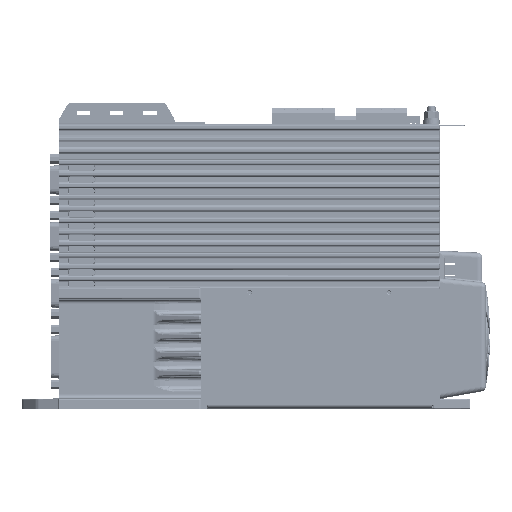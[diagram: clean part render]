
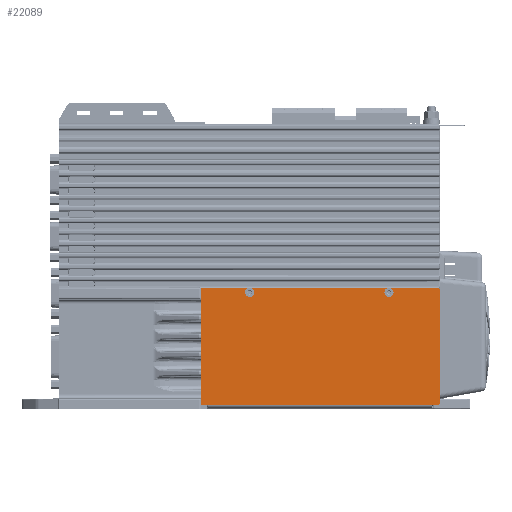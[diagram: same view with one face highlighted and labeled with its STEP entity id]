
A CAD part, left-side view. The second image highlights one B-rep face of the part: STEP entity #22089.
In plain terms, the highlighted planar face has unit normal (-1, 0, 0) as drawn and (1, 0, 0) by its records, which use the part's own axes.
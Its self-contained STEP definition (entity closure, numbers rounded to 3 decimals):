
#22089 = ADVANCED_FACE( '', ( #52572, #52573, #52574 ), #52575, .F. );
#52572 = FACE_BOUND( '', #106319, .T. );
#52573 = FACE_BOUND( '', #106320, .T. );
#52574 = FACE_OUTER_BOUND( '', #106321, .T. );
#52575 = PLANE( '', #106322 );
#106319 = EDGE_LOOP( '', ( #198352 ) );
#106320 = EDGE_LOOP( '', ( #198353 ) );
#106321 = EDGE_LOOP( '', ( #198354, #198355, #198356, #198357, #198358, #198359, #198360, #198361, #198362, #198363 ) );
#106322 = AXIS2_PLACEMENT_3D( '', #198364, #198365, #198366 );
#198352 = ORIENTED_EDGE( '', *, *, #297885, .F. );
#198353 = ORIENTED_EDGE( '', *, *, #293928, .F. );
#198354 = ORIENTED_EDGE( '', *, *, #297886, .F. );
#198355 = ORIENTED_EDGE( '', *, *, #297887, .F. );
#198356 = ORIENTED_EDGE( '', *, *, #297888, .T. );
#198357 = ORIENTED_EDGE( '', *, *, #297889, .T. );
#198358 = ORIENTED_EDGE( '', *, *, #297890, .T. );
#198359 = ORIENTED_EDGE( '', *, *, #297891, .F. );
#198360 = ORIENTED_EDGE( '', *, *, #282200, .T. );
#198361 = ORIENTED_EDGE( '', *, *, #297892, .F. );
#198362 = ORIENTED_EDGE( '', *, *, #297893, .T. );
#198363 = ORIENTED_EDGE( '', *, *, #297894, .F. );
#198364 = CARTESIAN_POINT( '', ( 0., 144., 0. ) );
#198365 = DIRECTION( '', ( -1., 0., 0. ) );
#198366 = DIRECTION( '', ( 0., 0., 1. ) );
#282200 = EDGE_CURVE( '', #331302, #331300, #331303, .F. );
#293928 = EDGE_CURVE( '', #350830, #350830, #350831, .T. );
#297885 = EDGE_CURVE( '', #356851, #356851, #356852, .T. );
#297886 = EDGE_CURVE( '', #356853, #356854, #356855, .T. );
#297887 = EDGE_CURVE( '', #356856, #356853, #356857, .T. );
#297888 = EDGE_CURVE( '', #356856, #356858, #356859, .F. );
#297889 = EDGE_CURVE( '', #356858, #356860, #356861, .T. );
#297890 = EDGE_CURVE( '', #356860, #356862, #356863, .F. );
#297891 = EDGE_CURVE( '', #331302, #356862, #356864, .T. );
#297892 = EDGE_CURVE( '', #356865, #331300, #356866, .T. );
#297893 = EDGE_CURVE( '', #356865, #356867, #356868, .F. );
#297894 = EDGE_CURVE( '', #356854, #356867, #356869, .T. );
#331300 = VERTEX_POINT( '', #404708 );
#331302 = VERTEX_POINT( '', #404711 );
#331303 = CIRCLE( '', #404712, 1. );
#350830 = VERTEX_POINT( '', #442134 );
#350831 = CIRCLE( '', #442135, 2.65 );
#356851 = VERTEX_POINT( '', #453922 );
#356852 = CIRCLE( '', #453923, 2.65 );
#356853 = VERTEX_POINT( '', #453924 );
#356854 = VERTEX_POINT( '', #453925 );
#356855 = LINE( '', #453926, #453927 );
#356856 = VERTEX_POINT( '', #453928 );
#356857 = LINE( '', #453929, #453930 );
#356858 = VERTEX_POINT( '', #453931 );
#356859 = CIRCLE( '', #453932, 1. );
#356860 = VERTEX_POINT( '', #453933 );
#356861 = LINE( '', #453934, #453935 );
#356862 = VERTEX_POINT( '', #453936 );
#356863 = CIRCLE( '', #453937, 1. );
#356864 = LINE( '', #453938, #453939 );
#356865 = VERTEX_POINT( '', #453940 );
#356866 = LINE( '', #453941, #453942 );
#356867 = VERTEX_POINT( '', #453943 );
#356868 = CIRCLE( '', #453944, 1. );
#356869 = LINE( '', #453945, #453946 );
#404708 = CARTESIAN_POINT( '', ( 0., 144., -71.5 ) );
#404711 = CARTESIAN_POINT( '', ( 0., 143., -72.5 ) );
#404712 = AXIS2_PLACEMENT_3D( '', #518309, #518310, #518311 );
#442134 = CARTESIAN_POINT( '', ( 0., 30.5, -72.31 ) );
#442135 = AXIS2_PLACEMENT_3D( '', #531560, #531561, #531562 );
#453922 = CARTESIAN_POINT( '', ( 0., 114.5, -72.31 ) );
#453923 = AXIS2_PLACEMENT_3D( '', #535978, #535979, #535980 );
#453924 = CARTESIAN_POINT( '', ( 0., 4.5, -2. ) );
#453925 = CARTESIAN_POINT( '', ( 0., 139.5, -2. ) );
#453926 = CARTESIAN_POINT( '', ( 0., 4.5, -2. ) );
#453927 = VECTOR( '', #535981, 1000. );
#453928 = CARTESIAN_POINT( '', ( 0., 1., -2. ) );
#453929 = CARTESIAN_POINT( '', ( 0., 4.5, -2. ) );
#453930 = VECTOR( '', #535982, 1000. );
#453931 = CARTESIAN_POINT( '', ( 0., 0., -3. ) );
#453932 = AXIS2_PLACEMENT_3D( '', #535983, #535984, #535985 );
#453933 = CARTESIAN_POINT( '', ( 0., 0., -71.5 ) );
#453934 = CARTESIAN_POINT( '', ( 0., 0., 0. ) );
#453935 = VECTOR( '', #535986, 1000. );
#453936 = CARTESIAN_POINT( '', ( 0., 1., -72.5 ) );
#453937 = AXIS2_PLACEMENT_3D( '', #535987, #535988, #535989 );
#453938 = CARTESIAN_POINT( '', ( 0., 144., -72.5 ) );
#453939 = VECTOR( '', #535990, 1000. );
#453940 = CARTESIAN_POINT( '', ( 0., 144., -3. ) );
#453941 = CARTESIAN_POINT( '', ( 0., 144., 0. ) );
#453942 = VECTOR( '', #535991, 1000. );
#453943 = CARTESIAN_POINT( '', ( 0., 143., -2. ) );
#453944 = AXIS2_PLACEMENT_3D( '', #535992, #535993, #535994 );
#453945 = CARTESIAN_POINT( '', ( 0., 144., -2. ) );
#453946 = VECTOR( '', #535995, 1000. );
#518309 = CARTESIAN_POINT( '', ( 0., 143., -71.5 ) );
#518310 = DIRECTION( '', ( -1., 0., 0. ) );
#518311 = DIRECTION( '', ( 0., 0., 1. ) );
#531560 = CARTESIAN_POINT( '', ( 0., 30.5, -69.66 ) );
#531561 = DIRECTION( '', ( 1., 0., 0. ) );
#531562 = DIRECTION( '', ( 0., 0., -1. ) );
#535978 = CARTESIAN_POINT( '', ( 0., 114.5, -69.66 ) );
#535979 = DIRECTION( '', ( 1., 0., 0. ) );
#535980 = DIRECTION( '', ( 0., 0., -1. ) );
#535981 = DIRECTION( '', ( 0., 1., 0. ) );
#535982 = DIRECTION( '', ( 0., 1., 0. ) );
#535983 = CARTESIAN_POINT( '', ( 0., 1., -3. ) );
#535984 = DIRECTION( '', ( -1., 0., 0. ) );
#535985 = DIRECTION( '', ( 0., 0., 1. ) );
#535986 = DIRECTION( '', ( 0., 0., -1. ) );
#535987 = CARTESIAN_POINT( '', ( 0., 1., -71.5 ) );
#535988 = DIRECTION( '', ( -1., 0., 0. ) );
#535989 = DIRECTION( '', ( 0., 0., 1. ) );
#535990 = DIRECTION( '', ( 0., -1., 0. ) );
#535991 = DIRECTION( '', ( 0., 0., -1. ) );
#535992 = CARTESIAN_POINT( '', ( 0., 143., -3. ) );
#535993 = DIRECTION( '', ( -1., 0., 0. ) );
#535994 = DIRECTION( '', ( 0., 0., 1. ) );
#535995 = DIRECTION( '', ( 0., 1., 0. ) );
